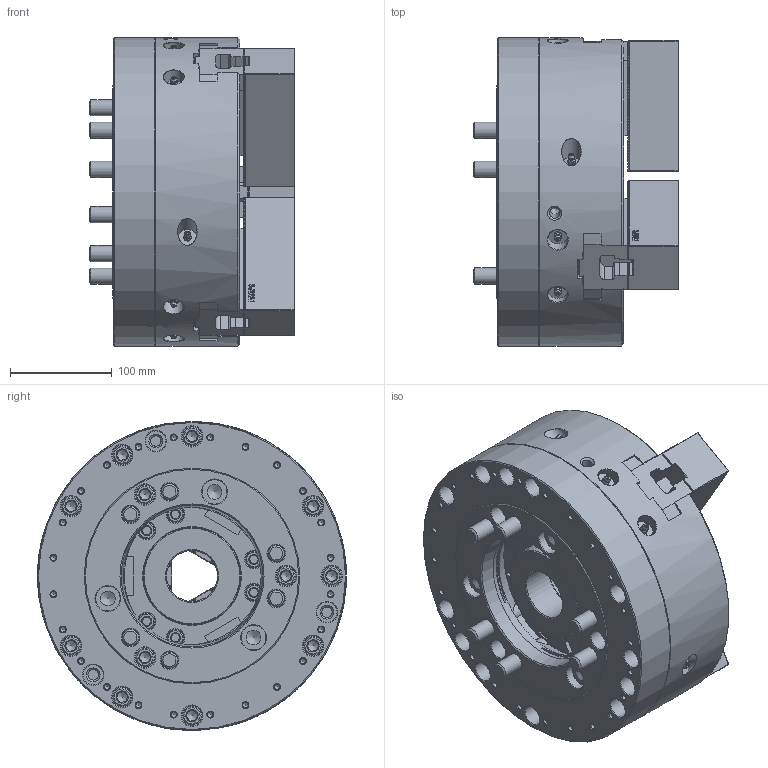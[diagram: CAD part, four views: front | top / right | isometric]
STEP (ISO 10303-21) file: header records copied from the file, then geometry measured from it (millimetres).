
FILE_DESCRIPTION (( 'STEP AP214' ), '1' );
FILE_NAME ('DT1_HOH-12K_OUTSIDE_VIEW_HCL.STEP', '2024-05-09T04:46:39', ( '' ), ( '' ), 'SwSTEP 2.0', 'SolidWorks 2022', '' );
FILE_SCHEMA (( 'AUTOMOTIVE_DESIGN' ));
Length unit declared in the file: millimetre
Products named in the file (9): DT1_HOH-12K_M14x45^DT1_HOH-12K_ﾃﾞﾌｫﾙﾄ; DT1_HOH-12K_M6x12^DT1_HOH-12K_ﾃﾞﾌｫﾙﾄ; Part3^DT1_HOH-12K_ﾃﾞﾌｫﾙﾄ; DT1_HOH-12K_TNUT^DT1_HOH-12K_ﾃﾞﾌｫﾙﾄ; DT1_HOH-12K_M16x130^DT1_HOH-12K_ﾃﾞﾌｫﾙﾄ; DT1_HOH-12K_DRAWNUT^DT1_HOH-12K_ﾃﾞﾌｫﾙﾄ; DT1_HOH-12K_OUTSIDE_VIEW_HCL; DT1_HOH-12K_SOFTJAW^DT1_HOH-12K_ﾃﾞﾌｫﾙﾄ; DT1_HOH-12K_COVER^DT1_HOH-12K_ﾃﾞﾌｫﾙﾄ
Assembly tree (24 placements, depth 2):
  DT1_HOH-12K_OUTSIDE_VIEW_HCL
    DT1_HOH-12K_SOFTJAW^DT1_HOH-12K_ﾃﾞﾌｫﾙﾄ  x3
    DT1_HOH-12K_TNUT^DT1_HOH-12K_ﾃﾞﾌｫﾙﾄ  x3
    DT1_HOH-12K_DRAWNUT^DT1_HOH-12K_ﾃﾞﾌｫﾙﾄ
    DT1_HOH-12K_COVER^DT1_HOH-12K_ﾃﾞﾌｫﾙﾄ
    Part3^DT1_HOH-12K_ﾃﾞﾌｫﾙﾄ
    DT1_HOH-12K_M6x12^DT1_HOH-12K_ﾃﾞﾌｫﾙﾄ  x3
    DT1_HOH-12K_M14x45^DT1_HOH-12K_ﾃﾞﾌｫﾙﾄ  x6
    DT1_HOH-12K_M16x130^DT1_HOH-12K_ﾃﾞﾌｫﾙﾄ  x6
Bounding box: 202 x 304 x 304 mm (x, y, z)
Volume: 9076559 mm3; surface area: 790989.2 mm2
Topology: 24 solids, 30 shells, 5378 faces, 15116 edges, 9954 vertices
Faces by surface type: plane 4019, cylinder 676, cone 387, bspline 251, torus 36, sphere 9
Full cylindrical faces by diameter (mm): 2 x9, 5 x3, 5.2 x24, 6 x3, 6.6 x3, 10.22 x3, 10.3 x5, 11 x3, 12 x6, 14 x6, 15 x6, 16 x6, 16.27 x6, 17 x12, 18.27 x12, 19 x3, 20 x21, 21.33 x6, 22 x6, 24.21 x3, 24.33 x6, 25 x6, 50 x1, 78 x1, 83 x2, 89 x1, 95.8 x2, 96 x3, 104.5 x2, 136 x1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
Entity records: 145345 total; most frequent: CARTESIAN_POINT 51837, ORIENTED_EDGE 20550, DIRECTION 16754, EDGE_CURVE 10275, VECTOR 7612, LINE 7612, VERTEX_POINT 6960, AXIS2_PLACEMENT_3D 4571
